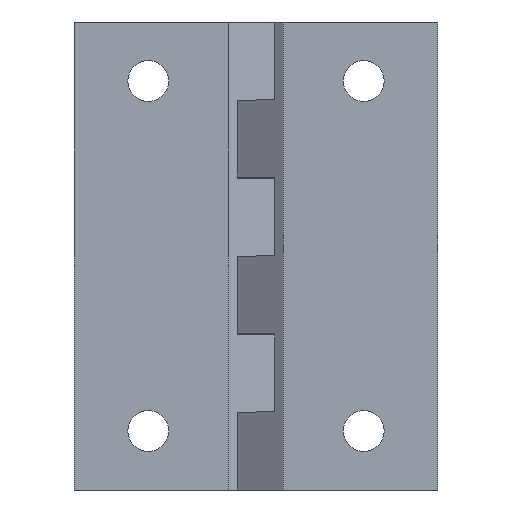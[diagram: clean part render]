
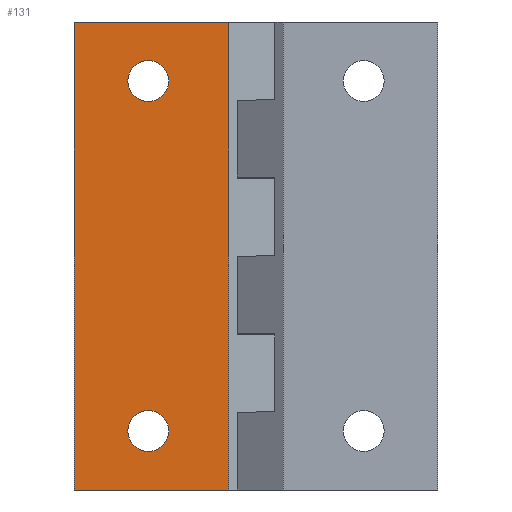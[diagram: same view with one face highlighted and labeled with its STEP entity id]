
A CAD part, front view. The second image highlights one B-rep face of the part: STEP entity #131.
In plain terms, the highlighted planar face has unit normal (0, -1, 0).
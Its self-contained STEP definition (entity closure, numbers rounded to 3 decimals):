
#21 = AXIS2_PLACEMENT_3D ( 'NONE', #2133, #1902, #1656 ) ;
#39 = CARTESIAN_POINT ( 'NONE',  ( 23.613, 40.253, 44.885 ) ) ;
#93 = CIRCLE ( 'NONE', #2041, 4.5 ) ;
#102 = VECTOR ( 'NONE', #363, 1000. ) ;
#104 = DIRECTION ( 'NONE',  ( 0., 0., 1. ) ) ;
#113 = EDGE_CURVE ( 'NONE', #2177, #339, #1487, .T. ) ;
#131 = ADVANCED_FACE ( 'NONE', ( #405, #1012, #1127 ), #155, .F. ) ;
#155 = PLANE ( 'NONE',  #1249 ) ;
#181 = LINE ( 'NONE', #1319, #2121 ) ;
#193 = EDGE_CURVE ( 'NONE', #2138, #753, #284, .T. ) ;
#204 = EDGE_LOOP ( 'NONE', ( #1066, #2295 ) ) ;
#273 = CARTESIAN_POINT ( 'NONE',  ( 38.906, 40.253, -40.615 ) ) ;
#284 = LINE ( 'NONE', #39, #1670 ) ;
#294 = ORIENTED_EDGE ( 'NONE', *, *, #2258, .F. ) ;
#299 = CIRCLE ( 'NONE', #2127, 4.5 ) ;
#326 = CARTESIAN_POINT ( 'NONE',  ( 56.613, 40.253, 44.885 ) ) ;
#331 = CARTESIAN_POINT ( 'NONE',  ( 38.906, 40.253, 36.385 ) ) ;
#339 = VERTEX_POINT ( 'NONE', #331 ) ;
#347 = DIRECTION ( 'NONE',  ( 0., 1., 0. ) ) ;
#363 = DIRECTION ( 'NONE',  ( 0., 0., -1. ) ) ;
#372 = CARTESIAN_POINT ( 'NONE',  ( 38.906, 40.253, -49.615 ) ) ;
#405 = FACE_BOUND ( 'NONE', #204, .T. ) ;
#408 = EDGE_CURVE ( 'NONE', #339, #2177, #93, .T. ) ;
#475 = EDGE_LOOP ( 'NONE', ( #762, #294, #1572, #1270 ) ) ;
#578 = CARTESIAN_POINT ( 'NONE',  ( 38.906, 40.253, -45.115 ) ) ;
#598 = CARTESIAN_POINT ( 'NONE',  ( 22.613, 40.253, 44.885 ) ) ;
#623 = EDGE_CURVE ( 'NONE', #2138, #943, #837, .T. ) ;
#629 = DIRECTION ( 'NONE',  ( 0., 0., 1. ) ) ;
#753 = VERTEX_POINT ( 'NONE', #326 ) ;
#762 = ORIENTED_EDGE ( 'NONE', *, *, #1427, .T. ) ;
#767 = ORIENTED_EDGE ( 'NONE', *, *, #1329, .T. ) ;
#771 = CIRCLE ( 'NONE', #21, 4.5 ) ;
#784 = VERTEX_POINT ( 'NONE', #1451 ) ;
#837 = LINE ( 'NONE', #598, #102 ) ;
#865 = VERTEX_POINT ( 'NONE', #273 ) ;
#869 = DIRECTION ( 'NONE',  ( 0., 1., 0. ) ) ;
#926 = DIRECTION ( 'NONE',  ( 0., 0., 1. ) ) ;
#943 = VERTEX_POINT ( 'NONE', #1292 ) ;
#1012 = FACE_BOUND ( 'NONE', #1402, .T. ) ;
#1021 = DIRECTION ( 'NONE',  ( 1., 0., 0. ) ) ;
#1066 = ORIENTED_EDGE ( 'NONE', *, *, #408, .T. ) ;
#1081 = DIRECTION ( 'NONE',  ( 0., 0., -1. ) ) ;
#1107 = CARTESIAN_POINT ( 'NONE',  ( 38.906, 40.253, 31.885 ) ) ;
#1127 = FACE_OUTER_BOUND ( 'NONE', #475, .T. ) ;
#1165 = DIRECTION ( 'NONE',  ( 0., 1., 0. ) ) ;
#1183 = CARTESIAN_POINT ( 'NONE',  ( 22.613, 40.253, 44.885 ) ) ;
#1214 = ORIENTED_EDGE ( 'NONE', *, *, #2098, .T. ) ;
#1249 = AXIS2_PLACEMENT_3D ( 'NONE', #2242, #2003, #1771 ) ;
#1254 = CARTESIAN_POINT ( 'NONE',  ( 23.613, 40.253, -58.115 ) ) ;
#1270 = ORIENTED_EDGE ( 'NONE', *, *, #623, .T. ) ;
#1292 = CARTESIAN_POINT ( 'NONE',  ( 22.613, 40.253, -58.115 ) ) ;
#1319 = CARTESIAN_POINT ( 'NONE',  ( 56.613, 40.253, 44.885 ) ) ;
#1329 = EDGE_CURVE ( 'NONE', #865, #1522, #299, .T. ) ;
#1402 = EDGE_LOOP ( 'NONE', ( #767, #1214 ) ) ;
#1427 = EDGE_CURVE ( 'NONE', #943, #784, #1490, .T. ) ;
#1451 = CARTESIAN_POINT ( 'NONE',  ( 56.613, 40.253, -58.115 ) ) ;
#1487 = CIRCLE ( 'NONE', #2309, 4.5 ) ;
#1490 = LINE ( 'NONE', #1254, #1545 ) ;
#1522 = VERTEX_POINT ( 'NONE', #372 ) ;
#1545 = VECTOR ( 'NONE', #1021, 1000. ) ;
#1572 = ORIENTED_EDGE ( 'NONE', *, *, #193, .F. ) ;
#1642 = CARTESIAN_POINT ( 'NONE',  ( 38.906, 40.253, 31.885 ) ) ;
#1656 = DIRECTION ( 'NONE',  ( 0., 0., 1. ) ) ;
#1670 = VECTOR ( 'NONE', #2131, 1000. ) ;
#1771 = DIRECTION ( 'NONE',  ( 0., 0., 1. ) ) ;
#1785 = CARTESIAN_POINT ( 'NONE',  ( 38.906, 40.253, 27.385 ) ) ;
#1902 = DIRECTION ( 'NONE',  ( 0., 1., 0. ) ) ;
#2003 = DIRECTION ( 'NONE',  ( 0., 1., 0. ) ) ;
#2041 = AXIS2_PLACEMENT_3D ( 'NONE', #1107, #869, #629 ) ;
#2098 = EDGE_CURVE ( 'NONE', #1522, #865, #771, .T. ) ;
#2121 = VECTOR ( 'NONE', #1081, 1000. ) ;
#2127 = AXIS2_PLACEMENT_3D ( 'NONE', #578, #347, #104 ) ;
#2131 = DIRECTION ( 'NONE',  ( 1., 0., 0. ) ) ;
#2133 = CARTESIAN_POINT ( 'NONE',  ( 38.906, 40.253, -45.115 ) ) ;
#2138 = VERTEX_POINT ( 'NONE', #1183 ) ;
#2177 = VERTEX_POINT ( 'NONE', #1785 ) ;
#2242 = CARTESIAN_POINT ( 'NONE',  ( 23.613, 40.253, 44.885 ) ) ;
#2258 = EDGE_CURVE ( 'NONE', #753, #784, #181, .T. ) ;
#2295 = ORIENTED_EDGE ( 'NONE', *, *, #113, .T. ) ;
#2309 = AXIS2_PLACEMENT_3D ( 'NONE', #1642, #1165, #926 ) ;
